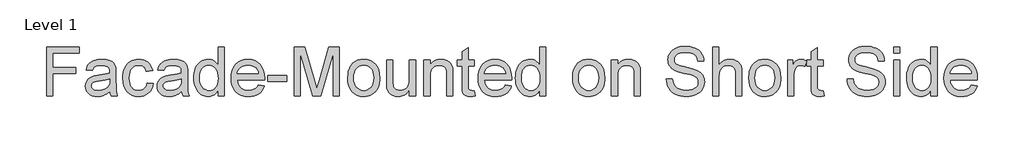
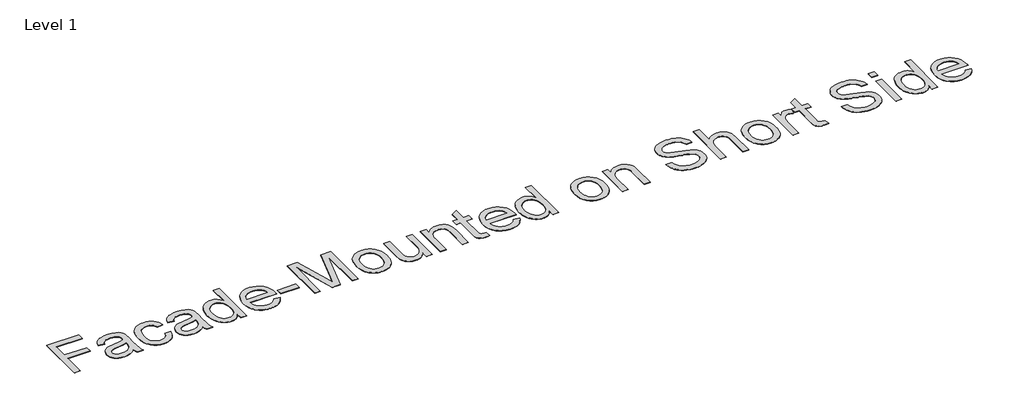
# One storey, part 20 of 69: 1 proxy.
"""IFC4 building model written with IfcOpenShell, lengths in millimetres."""

from ifc_helpers import new_model, si_unit, origin, origin_with_axes, place, context, project, spatial, polyline, outline, extrude, element, save

model = new_model("IFC4")

# Units and contexts
model_context = context("Model", 3, world=origin())
ifc_project = project(units=[si_unit("LENGTHUNIT", "METRE", prefix="MILLI")], contexts=[model_context])

# Site, building, storey
site = spatial("IfcSite", under=ifc_project)
building = spatial("IfcBuilding", under=site)
storey = spatial("IfcBuildingStorey", under=building, Name="Level 1", Elevation=0.0)

# Proxy
placement = place(None, origin())
element("IfcBuildingElementProxy", 1, Name="800mm Arial", ObjectType="800mm Arial", at=placement, inside=storey, context=model_context, shape_type="SweptSolid", body=[
    extrude(outline(polyline([(111387.7727564, -5171.4138599), (111387.7727564, -4372.0251615), (111924.8620381, -4372.0251615), (111924.8620381, -4471.9487488), (111487.6963437, -4471.9487488), (111487.6963437, -4709.2672686), (111862.4097961, -4709.2672686), (111862.4097961, -4809.1908559), (111487.6963437, -4809.1908559), (111487.6963437, -5171.4138599), (111387.7727564, -5171.4138599)])), origin_with_axes(), (0.0, 0.0, 1.0), 5.0),
    extrude(outline(polyline([(112424.4799746, -5096.4711694), (112376.738163, -5137.4066624), (112352.3366571, -5152.5684079), (112327.5814178, -5164.1928194), (112275.8875502, -5178.9764361), (112220.5343716, -5183.9043083), (112176.043248, -5180.9402663), (112137.0288933, -5172.0481404), (112103.4913074, -5157.2279307), (112075.4304905, -5136.479637), (112053.273362, -5111.1206113), (112037.4468417, -5082.4682057), (112027.9509295, -5050.5224202), (112024.7856254, -5015.2832547), (112029.5671252, -4973.8598535), (112043.9116246, -4936.2421359), (112066.0382588, -4904.0401986), (112094.1661631, -4878.8641385), (112127.2219397, -4859.835721), (112164.1321905, -4846.0767114), (112250.5895131, -4831.0491406), (112352.7574779, -4815.2409169), (112423.8944848, -4796.7004075), (112424.4799746, -4774.4517963), (112422.7600984, -4750.2271571), (112417.6004698, -4729.8569922), (112409.0010888, -4713.3413016), (112396.9619554, -4700.6800854), (112376.1526732, -4688.0432645), (112350.8058453, -4679.0169639), (112320.9214717, -4673.6011835), (112286.4995523, -4671.7959234), (112226.9747591, -4676.6018186), (112203.9454948, -4682.6091876), (112185.4049855, -4691.0195042), (112170.1700538, -4702.4914443), (112157.0575225, -4717.6836841), (112146.0673916, -4736.5962234), (112137.1996611, -4759.2290623), (112037.2760738, -4746.7386139), (112054.6212083, -4692.0929021), (112066.4956726, -4669.1612194), (112080.5047351, -4649.1569857), (112097.2521821, -4631.6776765), (112117.3417998, -4616.3207678), (112140.7735883, -4603.0862594), (112167.5475475, -4591.9741515), (112228.9507871, -4576.89779), (112299.3803272, -4571.8723361), (112366.9312094, -4576.3123002), (112420.4791278, -4589.6321924), (112460.8535265, -4609.6608216), (112488.8838492, -4634.2269965), (112507.4731494, -4664.5992783), (112519.5244805, -4702.0462281), (112523.1837915, -4736.5901245), (112524.4035619, -4789.479367), (112524.4035619, -4913.7983614), (112525.6721231, -5022.0895733), (112529.4778066, -5087.396078), (112536.9915919, -5130.307599), (112549.3844587, -5171.4138599), (112449.4608714, -5171.4138599), (112433.4574844, -5136.6748002), (112424.4799746, -5096.4711694)]), holes=[polyline([(112424.4799746, -4896.6239948), (112357.3438144, -4913.2616624), (112263.2751248, -4927.2646261), (112211.4348848, -4934.9247839), (112177.3057103, -4943.4631764), (112154.9351221, -4954.5386912), (112138.3706407, -4969.810216), (112128.1245697, -4988.1067713), (112124.7092127, -5008.2573775), (112126.5693625, -5023.7850541), (112132.1498119, -5037.9709833), (112141.4505608, -5050.8151651), (112154.4716093, -5062.3175995), (112171.0909804, -5071.7952152), (112191.1866969, -5078.5649406), (112241.8071666, -5083.980721), (112295.4770621, -5078.0038463), (112319.9700508, -5070.5327528), (112342.9017334, -5060.0732221), (112381.3488949, -5033.6529962), (112408.0862611, -5002.2073165), (112419.9424289, -4969.810216), (112423.8944848, -4924.922667), (112424.4799746, -4896.6239948)])]), origin_with_axes(), (0.0, 0.0, 1.0), 5.0),
    extrude(outline(polyline([(113036.5119468, -4959.0762369), (113136.4355341, -4971.5666853), (113125.5673802, -5018.7169083), (113108.5759792, -5060.4391532), (113085.461331, -5096.73342), (113056.2234357, -5127.5997088), (113022.0942612, -5152.2329711), (112984.3057757, -5169.8281584), (112942.8579791, -5180.3852708), (112897.7508714, -5183.9043083), (112841.7085226, -5178.9947326), (112791.4600829, -5164.2660056), (112747.0055524, -5139.7181273), (112708.3449311, -5105.3510976), (112677.0517227, -5061.8113948), (112654.699431, -5009.7454973), (112641.2880559, -4949.153405), (112636.8175976, -4880.035118), (112638.7265382, -4834.0924677), (112644.45336, -4791.1138593), (112653.998063, -4751.0992929), (112667.3606472, -4714.0487684), (112684.6325954, -4680.7063458), (112705.9053904, -4651.816085), (112731.1790321, -4627.377986), (112760.4535205, -4607.3920488), (112792.4054049, -4591.8521745), (112825.7112344, -4580.7522643), (112860.371009, -4574.0923182), (112896.3847287, -4571.8723361), (112940.7172821, -4574.921762), (112980.8172325, -4584.0700396), (113016.6845797, -4599.317169), (113048.3193238, -4620.6631502), (113075.1847658, -4647.620075), (113096.7442068, -4679.7000353), (113112.9976467, -4716.903031), (113123.9450857, -4759.2290623), (113024.0214984, -4771.7195107), (113016.221067, -4748.379205), (113005.8957109, -4728.1249183), (112993.0454303, -4710.9566506), (112977.670225, -4696.8744019), (112960.1604215, -4685.9025675), (112940.9063465, -4678.065543), (112919.9079999, -4673.3633283), (112897.1653817, -4671.7959234), (112863.2130739, -4674.8819424), (112832.5907392, -4684.1399994), (112805.2983776, -4699.5700943), (112781.335989, -4721.1722273), (112761.8257622, -4749.4465041), (112747.8898859, -4784.8930305), (112739.5283601, -4827.5118066), (112736.7411849, -4877.3028324), (112739.4673716, -4927.844017), (112747.6459318, -4970.9568001), (112761.2768655, -5006.6411818), (112780.3601727, -5034.897162), (112803.8468508, -5056.3712191), (112830.6878975, -5071.7098312), (112860.8833125, -5080.9129985), (112894.4330961, -5083.980721), (112921.469306, -5082.0656815), (112946.1757545, -5076.3205632), (112968.5524416, -5066.7453659), (112988.5993673, -5053.3400897), (113005.7554373, -5035.9583622), (113019.4595572, -5014.4538109), (113029.7117271, -4988.8264358), (113036.5119468, -4959.0762369)])), origin_with_axes(), (0.0, 0.0, 1.0), 5.0),
    extrude(outline(polyline([(113598.5821253, -5096.4711694), (113550.8403137, -5137.4066624), (113526.4388078, -5152.5684079), (113501.6835685, -5164.1928194), (113449.9897009, -5178.9764361), (113394.6365223, -5183.9043083), (113350.1453987, -5180.9402663), (113311.131044, -5172.0481404), (113277.5934581, -5157.2279307), (113249.5326412, -5136.479637), (113227.3755127, -5111.1206113), (113211.5489924, -5082.4682057), (113202.0530802, -5050.5224202), (113198.8877761, -5015.2832547), (113203.6692759, -4973.8598535), (113218.0137753, -4936.2421359), (113240.1404095, -4904.0401986), (113268.2683138, -4878.8641385), (113301.3240903, -4859.835721), (113338.2343412, -4846.0767114), (113424.6916638, -4831.0491406), (113526.8596286, -4815.2409169), (113597.9966355, -4796.7004075), (113598.5821253, -4774.4517963), (113596.8622491, -4750.2271571), (113591.7026205, -4729.8569922), (113583.1032395, -4713.3413016), (113571.0641061, -4700.6800854), (113550.2548239, -4688.0432645), (113524.907996, -4679.0169639), (113495.0236223, -4673.6011835), (113460.601703, -4671.7959234), (113401.0769098, -4676.6018186), (113378.0476455, -4682.6091876), (113359.5071362, -4691.0195042), (113344.2722045, -4702.4914443), (113331.1596732, -4717.6836841), (113320.1695423, -4736.5962234), (113311.3018118, -4759.2290623), (113211.3782245, -4746.7386139), (113228.7233589, -4692.0929021), (113240.5978233, -4669.1612194), (113254.6068858, -4649.1569857), (113271.3543328, -4631.6776765), (113291.4439505, -4616.3207678), (113314.875739, -4603.0862594), (113341.6496982, -4591.9741515), (113403.0529378, -4576.89779), (113473.4824779, -4571.8723361), (113541.0333601, -4576.3123002), (113594.5812785, -4589.6321924), (113634.9556772, -4609.6608216), (113662.9859999, -4634.2269965), (113681.5753001, -4664.5992783), (113693.6266312, -4702.0462281), (113697.2859422, -4736.5901245), (113698.5057126, -4789.479367), (113698.5057126, -4913.7983614), (113699.7742738, -5022.0895733), (113703.5799573, -5087.396078), (113711.0937426, -5130.307599), (113723.4866094, -5171.4138599), (113623.5630221, -5171.4138599), (113607.5596351, -5136.6748002), (113598.5821253, -5096.4711694)]), holes=[polyline([(113598.5821253, -4896.6239948), (113531.4459651, -4913.2616624), (113437.3772755, -4927.2646261), (113385.5370355, -4934.9247839), (113351.407861, -4943.4631764), (113329.0372728, -4954.5386912), (113312.4727914, -4969.810216), (113302.2267204, -4988.1067713), (113298.8113634, -5008.2573775), (113300.6715132, -5023.7850541), (113306.2519626, -5037.9709833), (113315.5527115, -5050.8151651), (113328.57376, -5062.3175995), (113345.1931311, -5071.7952152), (113365.2888476, -5078.5649406), (113415.9093173, -5083.980721), (113469.5792128, -5078.0038463), (113494.0722015, -5070.5327528), (113517.0038841, -5060.0732221), (113555.4510456, -5033.6529962), (113582.1884118, -5002.2073165), (113594.0445796, -4969.810216), (113597.9966355, -4924.922667), (113598.5821253, -4896.6239948)])]), origin_with_axes(), (0.0, 0.0, 1.0), 5.0),
    extrude(outline(polyline([(114198.123649, -5171.4138599), (114198.123649, -5077.150007), (114168.2270777, -5123.8550138), (114150.9093881, -5142.2034093), (114132.0120959, -5157.215733), (114111.5352011, -5168.8919847), (114089.4787037, -5177.2321644), (114065.8426037, -5182.2362723), (114040.6269011, -5183.9043083), (114007.6443108, -5181.489163), (113976.0278632, -5174.2437271), (113945.7775585, -5162.1680006), (113916.8933965, -5145.2619835), (113890.2780074, -5124.0318805), (113866.8340213, -5098.9838963), (113846.561438, -5070.1180309), (113829.4602577, -5037.4342843), (113815.8842136, -5001.5547394), (113806.1870393, -4963.101479), (113800.3687347, -4922.0745032), (113798.4292999, -4878.473812), (113800.2162634, -4835.6720703), (113805.5771541, -4794.8951474), (113814.511972, -4756.1430433), (113827.0207169, -4719.415758), (113843.0972902, -4685.7866893), (113862.7355929, -4656.3292353), (113885.935625, -4631.0433959), (113912.6973865, -4609.9291711), (113942.0755555, -4593.2793058), (113973.1248098, -4581.3865449), (114005.8451495, -4574.2508883), (114040.2365746, -4571.8723361), (114065.3882393, -4573.5739158), (114089.1249703, -4578.6786547), (114111.4467678, -4587.1865529), (114132.3536316, -4599.0976104), (114168.995533, -4630.3969176), (114198.123649, -4669.8442908), (114198.123649, -4372.0251615), (114298.0472363, -4372.0251615), (114298.0472363, -5171.4138599), (114198.123649, -5171.4138599)]), holes=[polyline([(113898.3528872, -4878.0834854), (113901.1705567, -4926.5388627), (113909.6235652, -4968.4684686), (113923.7119128, -5003.8723031), (113943.4355994, -5032.7503662), (113966.9893649, -5055.1636464), (113992.5679492, -5071.1731323), (114020.1713523, -5080.7788238), (114049.7995742, -5083.980721), (114079.5680696, -5080.9251963), (114107.0068037, -5071.758622), (114132.1157764, -5056.4809984), (114154.8949878, -5035.0923252), (114173.8075271, -5007.4218348), (114187.3164837, -4973.2987592), (114195.4218577, -4932.7230984), (114198.123649, -4885.6948524), (114195.3730669, -4834.1351596), (114187.1213205, -4789.9184844), (114173.3684097, -4753.0448266), (114154.1143347, -4723.5141864), (114130.8350175, -4700.8874463), (114105.0063803, -4684.7254891), (114076.6284231, -4675.0283148), (114045.7011458, -4671.7959234), (114015.4874341, -4674.9002389), (113987.8840311, -4684.2131856), (113962.8909365, -4699.7347633), (113940.5081506, -4721.4649722), (113922.0652228, -4749.8795225), (113908.891703, -4785.4541249), (113900.9875911, -4828.1887792), (113898.3528872, -4878.0834854)])]), origin_with_axes(), (0.0, 0.0, 1.0), 5.0),
    extrude(outline(polyline([(114858.9464353, -4996.5475821), (114956.9183901, -5009.0380305), (114941.8969182, -5048.2780428), (114921.618236, -5082.8585323), (114896.0823437, -5112.779499), (114865.2892412, -5138.040943), (114829.5560687, -5158.1061653), (114789.1999666, -5172.438467), (114744.2209348, -5181.0378479), (114694.6189734, -5183.9043083), (114632.6180464, -5178.9581395), (114577.3746471, -5164.1196332), (114528.8887756, -5139.3887893), (114487.1604318, -5104.7656078), (114453.6045494, -5061.2137074), (114429.636062, -5009.6967065), (114415.2549695, -4950.2146053), (114410.461272, -4882.7674036), (114415.3037603, -4813.0331325), (114429.8312252, -4751.5689045), (114454.0436667, -4698.3747194), (114469.7817537, -4674.878893), (114487.9410848, -4653.4505773), (114529.5596493, -4617.7600968), (114576.9355298, -4592.2668964), (114630.0687263, -4576.9709762), (114688.959239, -4571.8723361), (114745.9530087, -4576.9587785), (114797.494405, -4592.2181056), (114843.5834277, -4617.6503174), (114884.220077, -4653.255414), (114917.3917318, -4698.0819745), (114941.0857709, -4751.178578), (114955.3021943, -4812.5452244), (114960.0410022, -4882.1819138), (114959.4555124, -4909.1144432), (114510.3848593, -4909.1144432), (114516.1726697, -4948.9887361), (114527.6812029, -4983.9107612), (114544.9104592, -5013.8805188), (114567.8604384, -5038.8980087), (114595.2625793, -5058.6216954), (114625.8483209, -5072.7100429), (114659.6176631, -5081.1630515), (114696.570606, -5083.980721), (114749.7525934, -5078.7601039), (114794.5425607, -5063.0982525), (114813.7905369, -5051.10791), (114830.940508, -5036.0193507), (114845.9924742, -5017.8325748), (114858.9464353, -4996.5475821)]), holes=[polyline([(114510.3848593, -4809.1908559), (114860.1174149, -4809.1908559), (114854.9821817, -4780.9165792), (114846.6023594, -4756.3991951), (114834.9779479, -4735.6387037), (114820.1089473, -4718.6351049), (114792.8592776, -4698.142963), (114761.8527153, -4683.5057188), (114727.0892602, -4674.7233722), (114688.5689125, -4671.7959234), (114653.4334275, -4674.1317836), (114621.2131936, -4681.1393643), (114591.9082109, -4692.8186654), (114565.5184793, -4709.169687), (114543.3735485, -4729.4361714), (114526.8029683, -4752.861861), (114515.8067386, -4779.4467559), (114510.3848593, -4809.1908559)])]), origin_with_axes(), (0.0, 0.0, 1.0), 5.0),
    extrude(outline(polyline([(115010.0027958, -4934.09534), (115010.0027958, -4834.1717528), (115322.2640061, -4834.1717528), (115322.2640061, -4934.09534), (115010.0027958, -4934.09534)])), origin_with_axes(), (0.0, 0.0, 1.0), 5.0),
    extrude(outline(polyline([(115447.1684902, -5171.4138599), (115447.1684902, -4372.0251615), (115619.1073191, -4372.0251615), (115782.654128, -4935.4614828), (115815.6367184, -5053.1449265), (115851.3515943, -4925.70332), (116012.1661176, -4372.0251615), (116184.1049465, -4372.0251615), (116184.1049465, -5171.4138599), (116084.1813592, -5171.4138599), (116084.1813592, -4471.9487488), (115883.3583683, -5171.4138599), (115747.9150684, -5171.4138599), (115547.0920775, -4471.9487488), (115547.0920775, -5171.4138599), (115447.1684902, -5171.4138599)])), origin_with_axes(), (0.0, 0.0, 1.0), 5.0),
    extrude(outline(polyline([(116321.499879, -4877.8883222), (116326.9034617, -4801.8600361), (116333.65794, -4767.7888007), (116343.1142097, -4736.3461705), (116355.2722707, -4707.5321453), (116370.132123, -4681.3467253), (116387.6937666, -4657.7899103), (116407.9572016, -4636.8617005), (116446.038432, -4608.4288536), (116488.0717184, -4588.1196772), (116534.0570607, -4575.9341714), (116583.9944589, -4571.8723361), (116639.12198, -4576.8185049), (116688.9678955, -4591.6570112), (116733.5322053, -4616.3878551), (116772.8149095, -4651.0110366), (116804.8765732, -4694.3555761), (116827.7777616, -4745.250494), (116841.5184746, -4803.6957905), (116846.0987123, -4869.6914654), (116844.0738935, -4923.1783954), (116837.9994372, -4970.6396598), (116827.8753432, -5012.0752587), (116813.7016117, -5047.485192), (116795.6551094, -5078.0709336), (116773.9127028, -5105.0339573), (116748.4743921, -5128.374263), (116719.3401773, -5148.0918507), (116687.6444446, -5163.7598009), (116654.5215807, -5174.9511939), (116619.9715855, -5181.6660297), (116583.9944589, -5183.9043083), (116528.0618894, -5178.9764361), (116477.7524612, -5164.1928194), (116433.0661743, -5139.5534583), (116394.0030288, -5105.0583527), (116362.2829008, -5061.2929924), (116339.6256665, -5008.8428673), (116326.0313259, -4947.7079772), (116321.499879, -4877.8883222)]), holes=[polyline([(116421.4234663, -4877.6931589), (116424.314322, -4926.1607339), (116432.9868893, -4968.1269329), (116447.4411679, -5003.5917559), (116467.6771581, -5032.5552029), (116492.2921238, -5055.0538671), (116519.8833292, -5071.1243415), (116550.4507742, -5080.7666261), (116583.9944589, -5083.980721), (116617.3673758, -5080.7483295), (116647.8128438, -5071.0511552), (116675.3308629, -5054.8891981), (116699.9214332, -5032.262458), (116720.1574234, -5003.012365), (116734.6117021, -4966.9803488), (116743.2842693, -4924.1664094), (116746.175125, -4874.5705468), (116743.2659727, -4827.6398825), (116734.5385159, -4786.7714768), (116719.9927544, -4751.9653298), (116699.6286884, -4723.2214415), (116674.9466353, -4700.7227773), (116647.4469127, -4684.6523029), (116617.1295206, -4675.0100183), (116583.9944589, -4671.7959234), (116550.4507742, -4674.9978206), (116519.8833292, -4684.6035121), (116492.2921238, -4700.612998), (116467.6771581, -4723.0262782), (116447.4411679, -4751.9043413), (116432.9868893, -4787.3081758), (116424.314322, -4829.2377817), (116421.4234663, -4877.6931589)])]), origin_with_axes(), (0.0, 0.0, 1.0), 5.0),
    extrude(outline(polyline([(117333.2262004, -5171.4138599), (117333.2262004, -5070.5144563), (117315.8932636, -5097.0902028), (117297.0722071, -5120.1225165), (117276.7630307, -5139.6113973), (117254.9657345, -5155.5568453), (117231.6803185, -5167.9588603), (117206.9067826, -5176.8174425), (117180.6451269, -5182.1325918), (117152.8953514, -5183.9043083), (117104.2265143, -5178.9276452), (117058.9242434, -5163.9976561), (117020.9161993, -5141.5538816), (116994.1300423, -5114.0358625), (116976.1018365, -5080.6141548), (116964.3676457, -5040.4593148), (116959.9764724, -5002.5976431), (116958.512748, -4947.5616047), (116958.512748, -4584.3627845), (117058.4363353, -4584.3627845), (117058.4363353, -4900.5272599), (117059.9488505, -4963.760155), (117064.4863963, -5002.4024798), (117070.4693698, -5020.4123891), (117079.0504543, -5036.3852818), (117090.2296495, -5050.3211581), (117104.0069557, -5062.2200179), (117119.9676507, -5071.7403255), (117137.6970128, -5078.5405452), (117178.461738, -5083.980721), (117221.5684223, -5078.4185682), (117261.8940301, -5061.7321098), (117279.9405325, -5049.6014936), (117295.1449699, -5035.4582564), (117307.5073425, -5019.302398), (117317.0276501, -5001.1339186), (117329.1765628, -4954.1239692), (117333.2262004, -4889.7932808), (117333.2262004, -4584.3627845), (117433.1497877, -4584.3627845), (117433.1497877, -5171.4138599), (117333.2262004, -5171.4138599)])), origin_with_axes(), (0.0, 0.0, 1.0), 5.0),
    extrude(outline(polyline([(117570.5447202, -5171.4138599), (117570.5447202, -4584.3627845), (117670.4683075, -4584.3627845), (117670.4683075, -4666.3313522), (117686.9535038, -4644.1925203), (117705.1829717, -4625.0055327), (117725.1567112, -4608.7703893), (117746.8747224, -4595.4870901), (117770.3370051, -4585.1556352), (117795.5435594, -4577.7760246), (117851.1894829, -4571.8723361), (117900.4438098, -4576.6294405), (117945.5509174, -4590.9007536), (117983.1686351, -4612.9054108), (118009.954792, -4640.8625473), (118028.1293703, -4674.6989768), (118039.9123519, -4714.3415133), (118043.8644078, -4752.2519759), (118045.1817598, -4810.9473252), (118045.1817598, -5171.4138599), (117945.2581725, -5171.4138599), (117945.2581725, -4824.4135899), (117942.3795145, -4772.7441178), (117933.7435404, -4736.0046348), (117917.8133396, -4709.6819906), (117893.0520014, -4689.2630349), (117861.3135769, -4676.1627013), (117824.4521168, -4671.7959234), (117794.1103293, -4674.2476618), (117765.9275353, -4681.602877), (117739.9037348, -4693.8615691), (117716.0389278, -4711.0237379), (117696.1017814, -4735.0410162), (117681.8609626, -4767.8650364), (117673.3164712, -4809.4957985), (117670.4683075, -4859.9333026), (117670.4683075, -5171.4138599), (117570.5447202, -5171.4138599)])), origin_with_axes(), (0.0, 0.0, 1.0), 5.0),
    extrude(outline(polyline([(118394.9143153, -5088.0791494), (118407.4047638, -5174.3413087), (118367.8354135, -5181.5135584), (118332.6572365, -5183.9043083), (118284.6958663, -5179.7570891), (118248.9321995, -5167.3154315), (118223.6585578, -5148.1406415), (118207.1672627, -5123.7940253), (118198.0921712, -5081.9802976), (118195.0671408, -5010.4041733), (118195.0671408, -4684.2863718), (118120.1244503, -4684.2863718), (118120.1244503, -4584.3627845), (118195.0671408, -4584.3627845), (118195.0671408, -4441.6984441), (118294.9907281, -4382.9543039), (118294.9907281, -4584.3627845), (118394.9143153, -4584.3627845), (118394.9143153, -4684.2863718), (118294.9907281, -4684.2863718), (118294.9907281, -5007.4767245), (118296.30808, -5040.3617332), (118300.260136, -5058.9998242), (118307.1640362, -5069.3190813), (118317.3369209, -5077.2475886), (118331.7546065, -5082.2974379), (118351.3929092, -5083.980721), (118394.9143153, -5088.0791494)])), origin_with_axes(), (0.0, 0.0, 1.0), 5.0),
    extrude(outline(polyline([(118905.8517207, -4996.5475821), (119003.8236754, -5009.0380305), (118988.8022035, -5048.2780428), (118968.5235214, -5082.8585323), (118942.9876291, -5112.779499), (118912.1945265, -5138.040943), (118876.461354, -5158.1061653), (118836.1052519, -5172.438467), (118791.1262202, -5181.0378479), (118741.5242588, -5183.9043083), (118679.5233317, -5178.9581395), (118624.2799325, -5164.1196332), (118575.7940609, -5139.3887893), (118534.0657172, -5104.7656078), (118500.5098348, -5061.2137074), (118476.5413473, -5009.6967065), (118462.1602549, -4950.2146053), (118457.3665574, -4882.7674036), (118462.2090457, -4813.0331325), (118476.7365106, -4751.5689045), (118500.9489521, -4698.3747194), (118516.6870391, -4674.878893), (118534.8463702, -4653.4505773), (118576.4649346, -4617.7600968), (118623.8408151, -4592.2668964), (118676.9740117, -4576.9709762), (118735.8645243, -4571.8723361), (118792.8582941, -4576.9587785), (118844.3996903, -4592.2181056), (118890.4887131, -4617.6503174), (118931.1253624, -4653.255414), (118964.2970171, -4698.0819745), (118987.9910562, -4751.178578), (119002.2074797, -4812.5452244), (119006.9462875, -4882.1819138), (119006.3607977, -4909.1144432), (118557.2901447, -4909.1144432), (118563.077955, -4948.9887361), (118574.5864883, -4983.9107612), (118591.8157445, -5013.8805188), (118614.7657237, -5038.8980087), (118642.1678647, -5058.6216954), (118672.7536063, -5072.7100429), (118706.5229485, -5081.1630515), (118743.4758913, -5083.980721), (118796.6578787, -5078.7601039), (118841.4478461, -5063.0982525), (118860.6958222, -5051.10791), (118877.8457934, -5036.0193507), (118892.8977595, -5017.8325748), (118905.8517207, -4996.5475821)]), holes=[polyline([(118557.2901447, -4809.1908559), (118907.0227002, -4809.1908559), (118901.887467, -4780.9165792), (118893.5076447, -4756.3991951), (118881.8832333, -4735.6387037), (118867.0142327, -4718.6351049), (118839.764563, -4698.142963), (118808.7580006, -4683.5057188), (118773.9945456, -4674.7233722), (118735.4741978, -4671.7959234), (118700.3387128, -4674.1317836), (118668.1184789, -4681.1393643), (118638.8134962, -4692.8186654), (118612.4237646, -4709.169687), (118590.2788339, -4729.4361714), (118573.7082536, -4752.861861), (118562.7120239, -4779.4467559), (118557.2901447, -4809.1908559)])]), origin_with_axes(), (0.0, 0.0, 1.0), 5.0),
    extrude(outline(polyline([(119469.0928787, -5171.4138599), (119469.0928787, -5077.150007), (119439.1963074, -5123.8550138), (119421.8786178, -5142.2034093), (119402.9813256, -5157.215733), (119382.5044308, -5168.8919847), (119360.4479334, -5177.2321644), (119336.8118334, -5182.2362723), (119311.5961308, -5183.9043083), (119278.6135405, -5181.489163), (119246.9970929, -5174.2437271), (119216.7467882, -5162.1680006), (119187.8626262, -5145.2619835), (119161.2472371, -5124.0318805), (119137.803251, -5098.9838963), (119117.5306677, -5070.1180309), (119100.4294873, -5037.4342843), (119086.8534433, -5001.5547394), (119077.156269, -4963.101479), (119071.3379644, -4922.0745032), (119069.3985296, -4878.473812), (119071.1854931, -4835.6720703), (119076.5463838, -4794.8951474), (119085.4812017, -4756.1430433), (119097.9899466, -4719.415758), (119114.0665199, -4685.7866893), (119133.7048226, -4656.3292353), (119156.9048547, -4631.0433959), (119183.6666162, -4609.9291711), (119213.0447852, -4593.2793058), (119244.0940395, -4581.3865449), (119276.8143792, -4574.2508883), (119311.2058043, -4571.8723361), (119336.357469, -4573.5739158), (119360.0942, -4578.6786547), (119382.4159975, -4587.1865529), (119403.3228613, -4599.0976104), (119439.9647627, -4630.3969176), (119469.0928787, -4669.8442908), (119469.0928787, -4372.0251615), (119569.016466, -4372.0251615), (119569.016466, -5171.4138599), (119469.0928787, -5171.4138599)]), holes=[polyline([(119169.3221169, -4878.0834854), (119172.1397864, -4926.5388627), (119180.5927949, -4968.4684686), (119194.6811425, -5003.8723031), (119214.4048291, -5032.7503662), (119237.9585946, -5055.1636464), (119263.5371789, -5071.1731323), (119291.140582, -5080.7788238), (119320.7688039, -5083.980721), (119350.5372993, -5080.9251963), (119377.9760334, -5071.758622), (119403.0850061, -5056.4809984), (119425.8642174, -5035.0923252), (119444.7767568, -5007.4218348), (119458.2857134, -4973.2987592), (119466.3910874, -4932.7230984), (119469.0928787, -4885.6948524), (119466.3422966, -4834.1351596), (119458.0905502, -4789.9184844), (119444.3376394, -4753.0448266), (119425.0835644, -4723.5141864), (119401.8042472, -4700.8874463), (119375.97561, -4684.7254891), (119347.5976528, -4675.0283148), (119316.6703755, -4671.7959234), (119286.4566638, -4674.9002389), (119258.8532608, -4684.2131856), (119233.8601662, -4699.7347633), (119211.4773803, -4721.4649722), (119193.0344525, -4749.8795225), (119179.8609327, -4785.4541249), (119171.9568208, -4828.1887792), (119169.3221169, -4878.0834854)])]), origin_with_axes(), (0.0, 0.0, 1.0), 5.0),
    extrude(outline(polyline([(120006.1821604, -4877.8883222), (120011.5857431, -4801.8600361), (120018.3402214, -4767.7888007), (120027.7964911, -4736.3461705), (120039.9545521, -4707.5321453), (120054.8144044, -4681.3467253), (120072.3760481, -4657.7899103), (120092.639483, -4636.8617005), (120130.7207135, -4608.4288536), (120172.7539998, -4588.1196772), (120218.7393421, -4575.9341714), (120268.6767403, -4571.8723361), (120323.8042614, -4576.8185049), (120373.6501769, -4591.6570112), (120418.2144867, -4616.3878551), (120457.4971909, -4651.0110366), (120489.5588547, -4694.3555761), (120512.460043, -4745.250494), (120526.2007561, -4803.6957905), (120530.7809937, -4869.6914654), (120528.7561749, -4923.1783954), (120522.6817186, -4970.6396598), (120512.5576247, -5012.0752587), (120498.3838932, -5047.485192), (120480.3373908, -5078.0709336), (120458.5949843, -5105.0339573), (120433.1566736, -5128.374263), (120404.0224587, -5148.0918507), (120372.3267261, -5163.7598009), (120339.2038621, -5174.9511939), (120304.6538669, -5181.6660297), (120268.6767403, -5183.9043083), (120212.7441708, -5178.9764361), (120162.4347426, -5164.1928194), (120117.7484558, -5139.5534583), (120078.6853102, -5105.0583527), (120046.9651822, -5061.2929924), (120024.3079479, -5008.8428673), (120010.7136073, -4947.7079772), (120006.1821604, -4877.8883222)]), holes=[polyline([(120106.1057477, -4877.6931589), (120108.9966035, -4926.1607339), (120117.6691707, -4968.1269329), (120132.1234494, -5003.5917559), (120152.3594395, -5032.5552029), (120176.9744052, -5055.0538671), (120204.5656106, -5071.1243415), (120235.1330556, -5080.7666261), (120268.6767403, -5083.980721), (120302.0496572, -5080.7483295), (120332.4951252, -5071.0511552), (120360.0131444, -5054.8891981), (120384.6037147, -5032.262458), (120404.8397048, -5003.012365), (120419.2939835, -4966.9803488), (120427.9665507, -4924.1664094), (120430.8574064, -4874.5705468), (120427.9482541, -4827.6398825), (120419.2207973, -4786.7714768), (120404.6750358, -4751.9653298), (120384.3109698, -4723.2214415), (120359.6289167, -4700.7227773), (120332.1291941, -4684.6523029), (120301.811802, -4675.0100183), (120268.6767403, -4671.7959234), (120235.1330556, -4674.9978206), (120204.5656106, -4684.6035121), (120176.9744052, -4700.612998), (120152.3594395, -4723.0262782), (120132.1234494, -4751.9043413), (120117.6691707, -4787.3081758), (120108.9966035, -4829.2377817), (120106.1057477, -4877.6931589)])]), origin_with_axes(), (0.0, 0.0, 1.0), 5.0),
    extrude(outline(polyline([(120643.1950294, -5171.4138599), (120643.1950294, -4584.3627845), (120743.1186167, -4584.3627845), (120743.1186167, -4666.3313522), (120759.603813, -4644.1925203), (120777.833281, -4625.0055327), (120797.8070205, -4608.7703893), (120819.5250316, -4595.4870901), (120842.9873144, -4585.1556352), (120868.1938687, -4577.7760246), (120923.8397922, -4571.8723361), (120973.094119, -4576.6294405), (121018.2012267, -4590.9007536), (121055.8189443, -4612.9054108), (121082.6051013, -4640.8625473), (121100.7796795, -4674.6989768), (121112.5626611, -4714.3415133), (121116.5147171, -4752.2519759), (121117.8320691, -4810.9473252), (121117.8320691, -5171.4138599), (121017.9084818, -5171.4138599), (121017.9084818, -4824.4135899), (121015.0298237, -4772.7441178), (121006.3938497, -4736.0046348), (120990.4636488, -4709.6819906), (120965.7023107, -4689.2630349), (120933.9638861, -4676.1627013), (120897.102426, -4671.7959234), (120866.7606385, -4674.2476618), (120838.5778445, -4681.602877), (120812.5540441, -4693.8615691), (120788.6892371, -4711.0237379), (120768.7520907, -4735.0410162), (120754.5112718, -4767.8650364), (120745.9667805, -4809.4957985), (120743.1186167, -4859.9333026), (120743.1186167, -5171.4138599), (120643.1950294, -5171.4138599)])), origin_with_axes(), (0.0, 0.0, 1.0), 5.0),
    extrude(outline(polyline([(121542.5073151, -4896.6239948), (121642.4309024, -4896.6239948), (121653.8967437, -4952.074755), (121663.1060098, -4975.7200033), (121674.6328397, -4996.6451637), (121689.0627229, -5015.271057), (121706.9811494, -5032.018504), (121728.3881191, -5046.8875046), (121753.283632, -5059.8780588), (121780.7528604, -5070.4229735), (121809.8809764, -5077.9550554), (121873.1138715, -5083.980721), (121928.7841904, -5079.4187799), (121977.5262137, -5065.7329565), (122017.0223777, -5044.069835), (122032.4341761, -5030.6767566), (122044.9551187, -5015.5759996), (122061.568391, -4982.8617587), (122067.1061484, -4948.537421), (122062.9589292, -4915.0913179), (122050.5172716, -4886.1827606), (122040.0516419, -4873.3568753), (122025.2436298, -4861.5190041), (121982.6004583, -4840.8073035), (121929.8331929, -4825.1210567), (121837.1062507, -4802.6528868), (121741.598232, -4777.4036405), (121680.4877374, -4753.3741646), (121653.8052609, -4737.4561615), (121630.7455024, -4719.7572937), (121611.3084618, -4700.2775611), (121595.4941392, -4679.0169639), (121583.241546, -4656.1950606), (121574.4896937, -4632.0314099), (121569.2385823, -4606.5260118), (121567.4882119, -4579.6788664), (121569.6533043, -4549.9225686), (121576.1485814, -4521.1542848), (121586.9740433, -4493.3740151), (121602.1296899, -4466.5817593), (121621.4447534, -4441.8692119), (121644.748466, -4420.3280675), (121672.0408277, -4401.958326), (121703.3218384, -4386.7599874), (121737.5363968, -4374.8489299), (121773.6294015, -4366.3410317), (121811.6008526, -4361.2362928), (121851.45075, -4359.5347131), (121894.9233654, -4361.3155778), (121935.7612768, -4366.658172), (121973.9644842, -4375.5624955), (122009.5329877, -4388.0285486), (122041.8081112, -4403.9465517), (122070.1311788, -4423.2067255), (122094.5021905, -4445.8090702), (122114.9211462, -4471.7535856), (122131.2294758, -4500.2840141), (122143.2686092, -4530.6440982), (122151.0385463, -4562.8338378), (122154.5392872, -4596.8532329), (122054.6156999, -4596.8532329), (122047.9313584, -4564.9684359), (122036.2703538, -4537.2308581), (122019.6326862, -4513.6404995), (121998.0183556, -4494.19736), (121971.0248377, -4478.9990215), (121938.2496083, -4468.1430653), (121899.6926674, -4461.6294916), (121855.3540151, -4459.4583004), (121809.6004292, -4461.6050962), (121770.5067894, -4468.0454837), (121738.0730957, -4478.7794628), (121712.2993482, -4493.8070335), (121692.6610455, -4511.8718325), (121678.6336864, -4531.7174961), (121670.217271, -4553.3440245), (121667.4117992, -4576.7514175), (121669.4000249, -4596.889826), (121675.3647019, -4615.1497882), (121685.3058303, -4631.5313041), (121699.22341, -4646.0343736), (121721.1304855, -4659.7689877), (121755.6255911, -4673.6499743), (121862.3798924, -4701.8510649), (121972.5495506, -4728.6372218), (122039.1978027, -4752.0080218), (122069.8323351, -4769.072609), (122096.1610782, -4788.2595967), (122118.1840319, -4809.5689847), (122135.9011962, -4833.0007732), (122149.5199322, -4858.4329851), (122159.2476008, -4885.7436433), (122165.0842019, -4914.9327478), (122167.0297356, -4946.0002987), (122164.791457, -4977.256914), (122158.0766213, -5007.5987015), (122146.8852283, -5037.0256613), (122131.2172781, -5065.5377933), (122111.347219, -5092.0312053), (122087.5494995, -5115.4020053), (122059.8241193, -5135.6501931), (122028.1710787, -5152.7757689), (121993.5113041, -5166.3945049), (121956.7657222, -5176.1221734), (121917.9343331, -5181.9587746), (121877.0171366, -5183.9043083), (121825.90266, -5181.8063033), (121779.1183681, -5175.5122882), (121736.664261, -5165.0222632), (121698.5403386, -5150.3362282), (121664.5148446, -5131.4297877), (121634.3560226, -5108.2785464), (121608.0638727, -5080.8825043), (121585.6383947, -5049.2416613), (121567.5735958, -5014.3806247), (121554.3634829, -4977.3240013), (121546.008056, -4938.0717914), (121542.5073151, -4896.6239948)])), origin_with_axes(), (0.0, 0.0, 1.0), 5.0),
    extrude(outline(polyline([(122304.4246682, -5171.4138599), (122304.4246682, -4372.0251615), (122404.3482555, -4372.0251615), (122404.3482555, -4665.9410257), (122441.0511454, -4624.785974), (122482.2671856, -4595.3895085), (122527.9963761, -4577.7516292), (122578.2387169, -4571.8723361), (122609.4770357, -4573.4763341), (122638.592954, -4578.2883282), (122665.5864719, -4586.3083182), (122690.4575894, -4597.5363043), (122712.5720259, -4611.5941576), (122731.2955008, -4628.1037494), (122746.6280141, -4647.0650795), (122758.5695659, -4668.478148), (122767.534878, -4693.6664058), (122773.9386723, -4723.9533037), (122779.0617078, -4799.8230196), (122779.0617078, -5171.4138599), (122679.1381205, -5171.4138599), (122679.1381205, -4810.1666722), (122677.1498948, -4776.4278243), (122671.1852178, -4747.6168485), (122661.2440894, -4723.733745), (122647.3265097, -4704.7785137), (122629.7618166, -4690.3486305), (122608.8793482, -4680.041571), (122584.6791044, -4673.8573353), (122557.1610853, -4671.7959234), (122514.9326356, -4677.3580762), (122475.2900992, -4694.0445346), (122457.4936497, -4706.1568542), (122442.4538813, -4720.2452018), (122430.1707938, -4736.3095774), (122420.6443874, -4754.3499809), (122408.4222884, -4799.6766472), (122404.3482555, -4859.5429761), (122404.3482555, -5171.4138599), (122304.4246682, -5171.4138599)])), origin_with_axes(), (0.0, 0.0, 1.0), 5.0),
    extrude(outline(polyline([(122891.4757435, -4877.8883222), (122896.8793262, -4801.8600361), (122903.6338045, -4767.7888007), (122913.0900742, -4736.3461705), (122925.2481352, -4707.5321453), (122940.1079875, -4681.3467253), (122957.6696311, -4657.7899103), (122977.9330661, -4636.8617005), (123016.0142965, -4608.4288536), (123058.0475829, -4588.1196772), (123104.0329252, -4575.9341714), (123153.9703234, -4571.8723361), (123209.0978445, -4576.8185049), (123258.94376, -4591.6570112), (123303.5080698, -4616.3878551), (123342.790774, -4651.0110366), (123374.8524377, -4694.3555761), (123397.7536261, -4745.250494), (123411.4943391, -4803.6957905), (123416.0745768, -4869.6914654), (123414.049758, -4923.1783954), (123407.9753017, -4970.6396598), (123397.8512077, -5012.0752587), (123383.6774762, -5047.485192), (123365.6309739, -5078.0709336), (123343.8885673, -5105.0339573), (123318.4502566, -5128.374263), (123289.3160418, -5148.0918507), (123257.6203091, -5163.7598009), (123224.4974452, -5174.9511939), (123189.94745, -5181.6660297), (123153.9703234, -5183.9043083), (123098.0377539, -5178.9764361), (123047.7283257, -5164.1928194), (123003.0420388, -5139.5534583), (122963.9788933, -5105.0583527), (122932.2587653, -5061.2929924), (122909.601531, -5008.8428673), (122896.0071904, -4947.7079772), (122891.4757435, -4877.8883222)]), holes=[polyline([(122991.3993308, -4877.6931589), (122994.2901865, -4926.1607339), (123002.9627538, -4968.1269329), (123017.4170324, -5003.5917559), (123037.6530226, -5032.5552029), (123062.2679883, -5055.0538671), (123089.8591937, -5071.1243415), (123120.4266387, -5080.7666261), (123153.9703234, -5083.980721), (123187.3432403, -5080.7483295), (123217.7887083, -5071.0511552), (123245.3067274, -5054.8891981), (123269.8972977, -5032.262458), (123290.1332879, -5003.012365), (123304.5875666, -4966.9803488), (123313.2601338, -4924.1664094), (123316.1509895, -4874.5705468), (123313.2418372, -4827.6398825), (123304.5143803, -4786.7714768), (123289.9686189, -4751.9653298), (123269.6045529, -4723.2214415), (123244.9224998, -4700.7227773), (123217.4227772, -4684.6523029), (123187.1053851, -4675.0100183), (123153.9703234, -4671.7959234), (123120.4266387, -4674.9978206), (123089.8591937, -4684.6035121), (123062.2679883, -4700.612998), (123037.6530226, -4723.0262782), (123017.4170324, -4751.9043413), (123002.9627538, -4787.3081758), (122994.2901865, -4829.2377817), (122991.3993308, -4877.6931589)])]), origin_with_axes(), (0.0, 0.0, 1.0), 5.0),
    extrude(outline(polyline([(123528.4886125, -5171.4138599), (123528.4886125, -4584.3627845), (123615.9217514, -4584.3627845), (123615.9217514, -4671.2104336), (123648.2212703, -4620.8583135), (123663.4196089, -4603.4399928), (123677.9836669, -4591.1934985), (123707.8436452, -4576.7026267), (123740.435909, -4571.8723361), (123765.2216426, -4573.7995733), (123790.2025394, -4579.5812847), (123815.3785995, -4589.2174705), (123840.7498228, -4602.7081306), (123807.376906, -4692.2880653), (123772.2475198, -4676.9189589), (123737.1181336, -4671.7959234), (123707.2825508, -4676.7237956), (123680.6183709, -4691.5074123), (123659.0772265, -4715.0245847), (123644.6107501, -4746.1531241), (123632.4618374, -4801.9698154), (123628.4121998, -4862.8607514), (123628.4121998, -5171.4138599), (123528.4886125, -5171.4138599)])), origin_with_axes(), (0.0, 0.0, 1.0), 5.0),
    extrude(outline(polyline([(124115.5396879, -5088.0791494), (124128.0301363, -5174.3413087), (124088.460786, -5181.5135584), (124053.2826091, -5183.9043083), (124005.3212388, -5179.7570891), (123969.557572, -5167.3154315), (123944.2839303, -5148.1406415), (123927.7926352, -5123.7940253), (123918.7175437, -5081.9802976), (123915.6925133, -5010.4041733), (123915.6925133, -4684.2863718), (123840.7498228, -4684.2863718), (123840.7498228, -4584.3627845), (123915.6925133, -4584.3627845), (123915.6925133, -4441.6984441), (124015.6161006, -4382.9543039), (124015.6161006, -4584.3627845), (124115.5396879, -4584.3627845), (124115.5396879, -4684.2863718), (124015.6161006, -4684.2863718), (124015.6161006, -5007.4767245), (124016.9334525, -5040.3617332), (124020.8855085, -5058.9998242), (124027.7894087, -5069.3190813), (124037.9622934, -5077.2475886), (124052.379979, -5082.2974379), (124072.0182817, -5083.980721), (124115.5396879, -5088.0791494)])), origin_with_axes(), (0.0, 0.0, 1.0), 5.0),
    extrude(outline(polyline([(124502.7435886, -4896.6239948), (124602.6671759, -4896.6239948), (124614.1330172, -4952.074755), (124623.3422834, -4975.7200033), (124634.8691132, -4996.6451637), (124649.2989965, -5015.271057), (124667.217423, -5032.018504), (124688.6243927, -5046.8875046), (124713.5199056, -5059.8780588), (124740.9891339, -5070.4229735), (124770.1172499, -5077.9550554), (124833.350145, -5083.980721), (124889.0204639, -5079.4187799), (124937.7624872, -5065.7329565), (124977.2586512, -5044.069835), (124992.6704496, -5030.6767566), (125005.1913923, -5015.5759996), (125021.8046645, -4982.8617587), (125027.3424219, -4948.537421), (125023.1952027, -4915.0913179), (125010.7535451, -4886.1827606), (125000.2879155, -4873.3568753), (124985.4799034, -4861.5190041), (124942.8367319, -4840.8073035), (124890.0694664, -4825.1210567), (124797.3425242, -4802.6528868), (124701.8345056, -4777.4036405), (124640.7240109, -4753.3741646), (124614.0415344, -4737.4561615), (124590.9817759, -4719.7572937), (124571.5447354, -4700.2775611), (124555.7304127, -4679.0169639), (124543.4778195, -4656.1950606), (124534.7259673, -4632.0314099), (124529.4748559, -4606.5260118), (124527.7244854, -4579.6788664), (124529.8895778, -4549.9225686), (124536.3848549, -4521.1542848), (124547.2103168, -4493.3740151), (124562.3659635, -4466.5817593), (124581.681027, -4441.8692119), (124604.9847396, -4420.3280675), (124632.2771012, -4401.958326), (124663.5581119, -4386.7599874), (124697.7726703, -4374.8489299), (124733.865675, -4366.3410317), (124771.8371261, -4361.2362928), (124811.6870235, -4359.5347131), (124855.1596389, -4361.3155778), (124895.9975503, -4366.658172), (124934.2007578, -4375.5624955), (124969.7692613, -4388.0285486), (125002.0443848, -4403.9465517), (125030.3674524, -4423.2067255), (125054.738464, -4445.8090702), (125075.1574197, -4471.7535856), (125091.4657493, -4500.2840141), (125103.5048827, -4530.6440982), (125111.2748199, -4562.8338378), (125114.7755608, -4596.8532329), (125014.8519735, -4596.8532329), (125008.167632, -4564.9684359), (124996.5066274, -4537.2308581), (124979.8689598, -4513.6404995), (124958.2546291, -4494.19736), (124931.2611112, -4478.9990215), (124898.4858818, -4468.1430653), (124859.928941, -4461.6294916), (124815.5902887, -4459.4583004), (124769.8367027, -4461.6050962), (124730.7430629, -4468.0454837), (124698.3093693, -4478.7794628), (124672.5356217, -4493.8070335), (124652.897319, -4511.8718325), (124638.86996, -4531.7174961), (124630.4535445, -4553.3440245), (124627.6480727, -4576.7514175), (124629.6362984, -4596.889826), (124635.6009754, -4615.1497882), (124645.5421038, -4631.5313041), (124659.4596835, -4646.0343736), (124681.3667591, -4659.7689877), (124715.8618646, -4673.6499743), (124822.6161659, -4701.8510649), (124932.7858242, -4728.6372218), (124999.4340762, -4752.0080218), (125030.0686086, -4769.072609), (125056.3973517, -4788.2595967), (125078.4203054, -4809.5689847), (125096.1374698, -4833.0007732), (125109.7562058, -4858.4329851), (125119.4838743, -4885.7436433), (125125.3204755, -4914.9327478), (125127.2660092, -4946.0002987), (125125.0277306, -4977.256914), (125118.3128948, -5007.5987015), (125107.1215018, -5037.0256613), (125091.4535516, -5065.5377933), (125071.5834926, -5092.0312053), (125047.785773, -5115.4020053), (125020.0603929, -5135.6501931), (124988.4073522, -5152.7757689), (124953.7475777, -5166.3945049), (124917.0019958, -5176.1221734), (124878.1706066, -5181.9587746), (124837.2534101, -5183.9043083), (124786.1389335, -5181.8063033), (124739.3546416, -5175.5122882), (124696.9005345, -5165.0222632), (124658.7766121, -5150.3362282), (124624.7511181, -5131.4297877), (124594.5922962, -5108.2785464), (124568.3001462, -5080.8825043), (124545.8746683, -5049.2416613), (124527.8098694, -5014.3806247), (124514.5997564, -4977.3240013), (124506.2443295, -4938.0717914), (124502.7435886, -4896.6239948)])), origin_with_axes(), (0.0, 0.0, 1.0), 5.0),
    extrude(outline(polyline([(125264.6609417, -5171.4138599), (125264.6609417, -4584.3627845), (125364.584529, -4584.3627845), (125364.584529, -5171.4138599), (125264.6609417, -5171.4138599)])), origin_with_axes(), (0.0, 0.0, 1.0), 5.0),
    extrude(outline(polyline([(125264.6609417, -4471.9487488), (125264.6609417, -4372.0251615), (125364.584529, -4372.0251615), (125364.584529, -4471.9487488), (125264.6609417, -4471.9487488)])), origin_with_axes(), (0.0, 0.0, 1.0), 5.0),
    extrude(outline(polyline([(125876.6929139, -5171.4138599), (125876.6929139, -5077.150007), (125846.7963425, -5123.8550138), (125829.478653, -5142.2034093), (125810.5813608, -5157.215733), (125790.104466, -5168.8919847), (125768.0479686, -5177.2321644), (125744.4118686, -5182.2362723), (125719.196166, -5183.9043083), (125686.2135756, -5181.489163), (125654.5971281, -5174.2437271), (125624.3468233, -5162.1680006), (125595.4626614, -5145.2619835), (125568.8472723, -5124.0318805), (125545.4032861, -5098.9838963), (125525.1307028, -5070.1180309), (125508.0295225, -5037.4342843), (125494.4534785, -5001.5547394), (125484.7563042, -4963.101479), (125478.9379996, -4922.0745032), (125476.9985647, -4878.473812), (125478.7855283, -4835.6720703), (125484.146419, -4794.8951474), (125493.0812368, -4756.1430433), (125505.5899818, -4719.415758), (125521.666555, -4685.7866893), (125541.3048577, -4656.3292353), (125564.5048898, -4631.0433959), (125591.2666514, -4609.9291711), (125620.6448203, -4593.2793058), (125651.6940746, -4581.3865449), (125684.4144143, -4574.2508883), (125718.8058394, -4571.8723361), (125743.9575041, -4573.5739158), (125767.6942352, -4578.6786547), (125790.0160326, -4587.1865529), (125810.9228965, -4599.0976104), (125847.5647979, -4630.3969176), (125876.6929139, -4669.8442908), (125876.6929139, -4372.0251615), (125976.6165012, -4372.0251615), (125976.6165012, -5171.4138599), (125876.6929139, -5171.4138599)]), holes=[polyline([(125576.922152, -4878.0834854), (125579.7398215, -4926.5388627), (125588.1928301, -4968.4684686), (125602.2811776, -5003.8723031), (125622.0048642, -5032.7503662), (125645.5586298, -5055.1636464), (125671.1372141, -5071.1731323), (125698.7406171, -5080.7788238), (125728.368839, -5083.980721), (125758.1373345, -5080.9251963), (125785.5760685, -5071.758622), (125810.6850413, -5056.4809984), (125833.4642526, -5035.0923252), (125852.3767919, -5007.4218348), (125865.8857486, -4973.2987592), (125873.9911226, -4932.7230984), (125876.6929139, -4885.6948524), (125873.9423317, -4834.1351596), (125865.6905853, -4789.9184844), (125851.9376746, -4753.0448266), (125832.6835996, -4723.5141864), (125809.4042824, -4700.8874463), (125783.5756452, -4684.7254891), (125755.1976879, -4675.0283148), (125724.2704106, -4671.7959234), (125694.056699, -4674.9002389), (125666.4532959, -4684.2131856), (125641.4602014, -4699.7347633), (125619.0774154, -4721.4649722), (125600.6344877, -4749.8795225), (125587.4609679, -4785.4541249), (125579.556856, -4828.1887792), (125576.922152, -4878.0834854)])]), origin_with_axes(), (0.0, 0.0, 1.0), 5.0),
    extrude(outline(polyline([(126537.5157002, -4996.5475821), (126635.4876549, -5009.0380305), (126620.466183, -5048.2780428), (126600.1875009, -5082.8585323), (126574.6516086, -5112.779499), (126543.858506, -5138.040943), (126508.1253335, -5158.1061653), (126467.7692314, -5172.438467), (126422.7901996, -5181.0378479), (126373.1882383, -5183.9043083), (126311.1873112, -5178.9581395), (126255.943912, -5164.1196332), (126207.4580404, -5139.3887893), (126165.7296967, -5104.7656078), (126132.1738143, -5061.2137074), (126108.2053268, -5009.6967065), (126093.8242344, -4950.2146053), (126089.0305369, -4882.7674036), (126093.8730252, -4813.0331325), (126108.4004901, -4751.5689045), (126132.6129316, -4698.3747194), (126148.3510186, -4674.878893), (126166.5103497, -4653.4505773), (126208.1289141, -4617.7600968), (126255.5047946, -4592.2668964), (126308.6379912, -4576.9709762), (126367.5285038, -4571.8723361), (126424.5222735, -4576.9587785), (126476.0636698, -4592.2181056), (126522.1526926, -4617.6503174), (126562.7893419, -4653.255414), (126595.9609966, -4698.0819745), (126619.6550357, -4751.178578), (126633.8714592, -4812.5452244), (126638.610267, -4882.1819138), (126638.0247772, -4909.1144432), (126188.9541242, -4909.1144432), (126194.7419345, -4948.9887361), (126206.2504678, -4983.9107612), (126223.479724, -5013.8805188), (126246.4297032, -5038.8980087), (126273.8318442, -5058.6216954), (126304.4175858, -5072.7100429), (126338.186928, -5081.1630515), (126375.1398708, -5083.980721), (126428.3218582, -5078.7601039), (126473.1118255, -5063.0982525), (126492.3598017, -5051.10791), (126509.5097729, -5036.0193507), (126524.561739, -5017.8325748), (126537.5157002, -4996.5475821)]), holes=[polyline([(126188.9541242, -4809.1908559), (126538.6866797, -4809.1908559), (126533.5514465, -4780.9165792), (126525.1716242, -4756.3991951), (126513.5472127, -4735.6387037), (126498.6782121, -4718.6351049), (126471.4285425, -4698.142963), (126440.4219801, -4683.5057188), (126405.658525, -4674.7233722), (126367.1381773, -4671.7959234), (126332.0026923, -4674.1317836), (126299.7824584, -4681.1393643), (126270.4774757, -4692.8186654), (126244.0877441, -4709.169687), (126221.9428134, -4729.4361714), (126205.3722331, -4752.861861), (126194.3760034, -4779.4467559), (126188.9541242, -4809.1908559)])]), origin_with_axes(), (0.0, 0.0, 1.0), 5.0),
])

save(model, "model.ifc")
